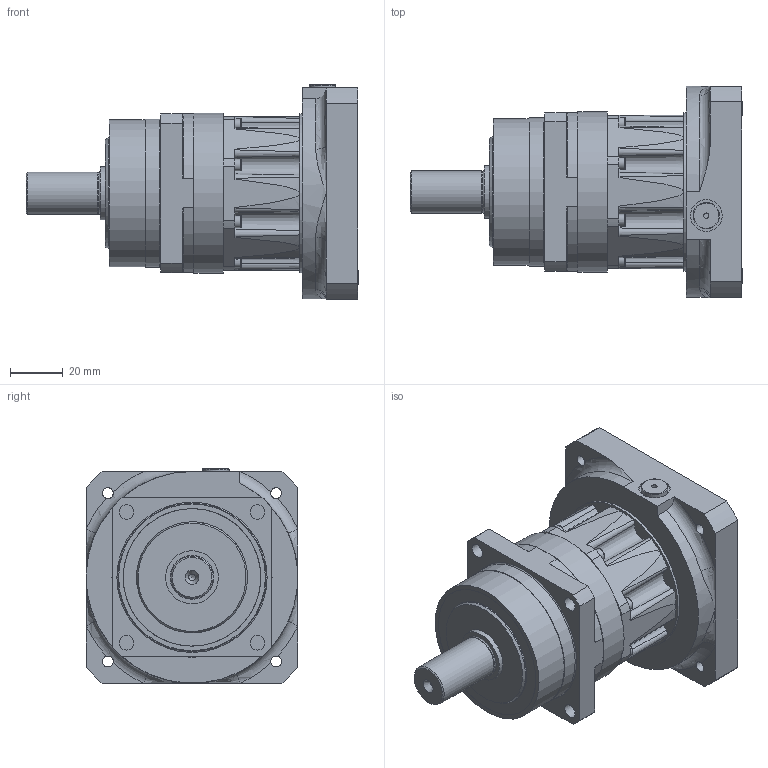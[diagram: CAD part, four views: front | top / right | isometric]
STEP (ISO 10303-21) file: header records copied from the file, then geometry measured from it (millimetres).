
FILE_DESCRIPTION(/* description */ ('ANFX-P110N-2-8A'),/* implementation_level */ '2;1');
FILE_NAME(/* name */ 'C:\Users\ADMINI~1\AppData\Local\Temp\MM582137_ANFX-P110N-2-8A.stp',/* time_stamp */ '2018-06-20T09:19:12+02:00',/* author */ ('Max'),/* organization */ (''),/* preprocessor_version */ 'ST-DEVELOPER v17',/* originating_system */ 'Autodesk Inventor 2018',/* authorisation */ '');
FILE_SCHEMA (('AUTOMOTIVE_DESIGN { 1 0 10303 214 3 1 1 }'));
Length unit declared in the file: millimetre
Products named in the file (17): MM579792; MMBG0004130; MMCL239LG; MMCL433LG; MAW8353G; MAX4839G; MMBG0004131; MMCH473LG; MMAP6508G; 202471; MMAP3153G; 202119; M009M2,5R020NG; 530N20357---G; 135352; MAW8349G; 211554
Assembly tree (30 placements, depth 3):
  MM579792
    MMBG0004130
      MMCL239LG
      MMCL433LG
      MAW8353G
      MAX4839G
    MMBG0004131
      MMCH473LG
      MMAP6508G
      202471
      MMAP3153G
      202119
      M009M2,5R020NG  x8
      530N20357---G
    135352
    MAW8349G
    211554  x8
Bounding box: 125.5 x 80 x 81 mm (x, y, z)
Volume: 211075.2 mm3; surface area: 101474.2 mm2
Topology: 97 solids, 98 shells, 707 faces, 2006 edges, 1413 vertices
Faces by surface type: plane 272, cylinder 188, cone 110, sphere 68, torus 63, bspline 6
Full cylindrical faces by diameter (mm): 2 x1, 2.013 x8, 2.459 x1, 2.5 x9, 2.9 x8, 3 x8, 3.242 x9, 4 x9, 4.134 x4, 4.5 x17, 5.5 x4, 7 x9, 7.8 x1, 8 x9, 8.2 x1, 8.4 x1, 10 x1, 11.5 x1, 12 x1, 16 x1, 19 x1, 19.4 x1, 19.6 x1, 20 x3, 20.5 x1, 22 x1, 25.172 x2, 27.5 x4, 28 x1, 32 x1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
Entity records: 18261 total; most frequent: CARTESIAN_POINT 4130, DIRECTION 3095, ORIENTED_EDGE 2540, AXIS2_PLACEMENT_3D 1367, EDGE_CURVE 1270, VERTEX_POINT 1007, CIRCLE 829, EDGE_LOOP 655
